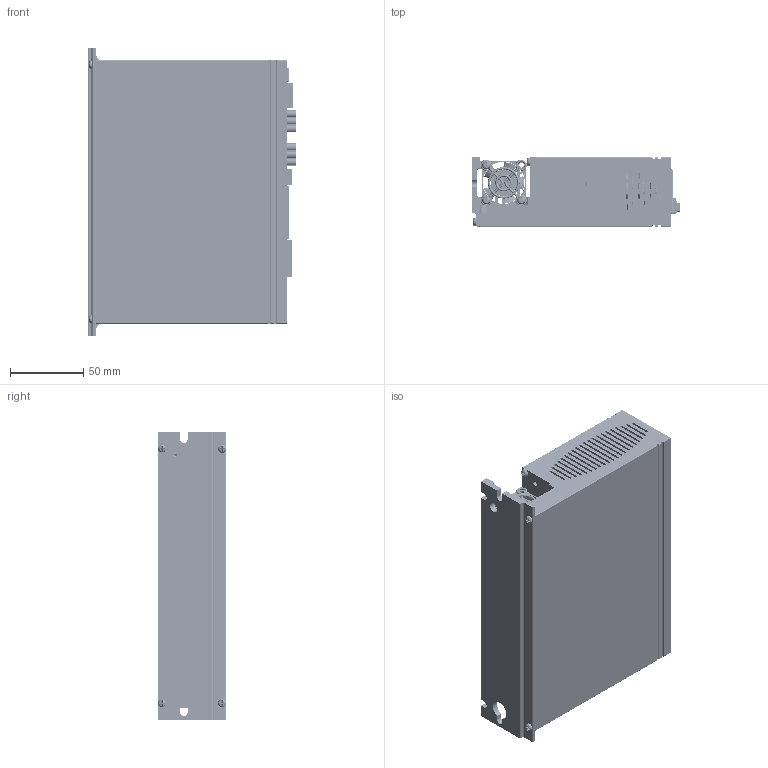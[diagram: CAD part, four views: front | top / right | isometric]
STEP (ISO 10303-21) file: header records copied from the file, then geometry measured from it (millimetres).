
FILE_DESCRIPTION((''),'2;1');
FILE_NAME('SW5_ISD00_ASM','2020-07-29T10:41:58',('Matteo Maccalli'),(''),'CREO PARAMETRIC BY PTC INC, 2019344','CREO PARAMETRIC BY PTC INC, 2019344','');
FILE_SCHEMA(('AUTOMOTIVE_DESIGN { 1 0 10303 214 1 1 1 1 }'));
Products named in the file (417): ISD00_DISSIPATORE-03; AD_00883-03_ISD00; SCATOLA_SW5_D-04; ACC_2E9X9E5; FAN-HOUSE-30X30X10-PROMOCO_FAN-; FAN-30X30X10-PROMOCO_FAN-KDE050; GRIGLIA_30X30; ACC_2E9X19; ISD00_EARTH_FIX-01; AD_01053_ISD00_BLK; BOARD-185; CPP_4X13X9_P10_1_2; CY204_1_ASM; CPP_4X13X9_P10; CY203_1_ASM; CY202_1_ASM; 79202-X02LF; JMP500_ASM; CE_35X30_P10; CE202_ASM; BOARD-38953; USER_LIBRARY-TSSOP-16-1_1_2; IC402_ASM; USER_LIBRARY-ARRAY-1206-4-58410; USER_LIBRARY-ARRAY-1206-4-68119; USER_LIBRARY-ARRAY-1206-4-70352; USER_LIBRARY-ARRAY-1206-4-76785; USER_LIBRARY-ARRAY-1206-4-58388_ASM; RN403_ASM; RN402_ASM; RN401_ASM; RN105_ASM; RN104_ASM; USER_LIBRARY-RES0603-1_1_2; R405_ASM; USER_LIBRARY-TSSOP-16-1; IC401_ASM; IC100_ASM; SW3DPS-0603_SMD_CAPACITOR_1_2; C401_ASM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
Assembly tree (583 placements, depth 8):
  SW5_ISD00_ASM
    ISD00_DISSIPATORE-03
    AD_00883-03_ISD00
    SCATOLA_SW5_D-04
    ACC_2E9X9E5  x4
    FAN-HOUSE-30X30X10-PROMOCO_FAN-
    FAN-30X30X10-PROMOCO_FAN-KDE050
    GRIGLIA_30X30
    ACC_2E9X19  x3
    ISD00_EARTH_FIX-01
    AD_01053_ISD00_BLK
    ASM0001_ASM
      PCB_ASM
        BOARD-185
        CY204_1_ASM
          CPP_4X13X9_P10_1_2
        CY203_1_ASM
          CPP_4X13X9_P10
        CY202_1_ASM
          CPP_4X13X9_P10
        JMP500_ASM
          79202-X02LF  x2
        CE202_ASM
          CE_35X30_P10
        VIS400-38854_ASM
          ISD00VIS-02_ASM
            BOARD-38953
            IC402_ASM
              USER_LIBRARY-TSSOP-16-1_1_2
            RN403_ASM
              USER_LIBRARY-ARRAY-1206-4-58388_ASM
                USER_LIBRARY-ARRAY-1206-4-58410
                USER_LIBRARY-ARRAY-1206-4-68119
                USER_LIBRARY-ARRAY-1206-4-70352
                USER_LIBRARY-ARRAY-1206-4-76785
            RN402_ASM
              USER_LIBRARY-ARRAY-1206-4-58388_ASM
                USER_LIBRARY-ARRAY-1206-4-58410
                USER_LIBRARY-ARRAY-1206-4-68119
                USER_LIBRARY-ARRAY-1206-4-70352
                USER_LIBRARY-ARRAY-1206-4-76785
            RN401_ASM
              USER_LIBRARY-ARRAY-1206-4-58388_ASM
                USER_LIBRARY-ARRAY-1206-4-58410
                USER_LIBRARY-ARRAY-1206-4-68119
                USER_LIBRARY-ARRAY-1206-4-70352
                USER_LIBRARY-ARRAY-1206-4-76785
            RN105_ASM
              USER_LIBRARY-ARRAY-1206-4-58388_ASM
                USER_LIBRARY-ARRAY-1206-4-58410
                USER_LIBRARY-ARRAY-1206-4-68119
                USER_LIBRARY-ARRAY-1206-4-70352
                USER_LIBRARY-ARRAY-1206-4-76785
            RN104_ASM
              USER_LIBRARY-ARRAY-1206-4-58388_ASM
                USER_LIBRARY-ARRAY-1206-4-58410
                USER_LIBRARY-ARRAY-1206-4-68119
                USER_LIBRARY-ARRAY-1206-4-70352
                USER_LIBRARY-ARRAY-1206-4-76785
            R405_ASM
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Bounding box: 142.78 x 47 x 196.6 mm (x, y, z)
Volume: 471734.3 mm3; surface area: 367164.2 mm2
Topology: 356 solids, 363 shells, 22235 faces, 58432 edges, 36986 vertices
Faces by surface type: plane 15046, cylinder 4734, extrusion 1125, sphere 604, bspline 330, cone 237, torus 159
Entity records: 680402 total; most frequent: CARTESIAN_POINT 124980, ORIENTED_EDGE 81870, DIRECTION 77314, PRESENTATION_STYLE_ASSIGNMENT 42026, EDGE_CURVE 40949, STYLED_ITEM 36483, CURVE_STYLE 35908, VECTOR 31588
